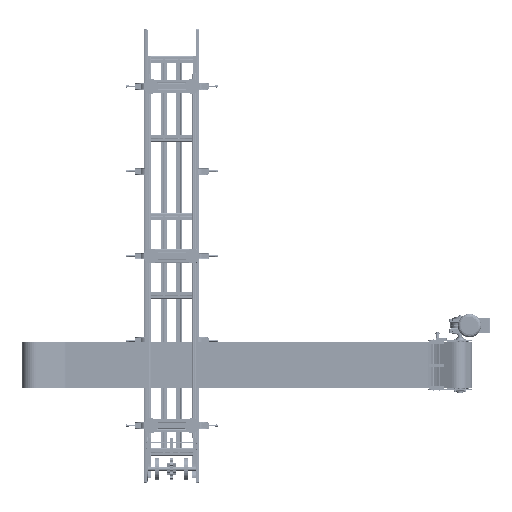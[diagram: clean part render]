
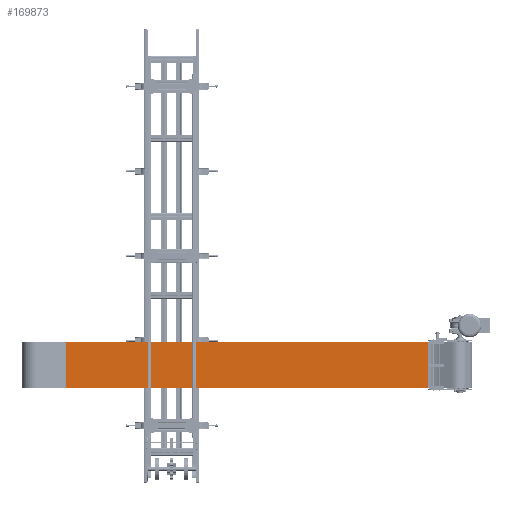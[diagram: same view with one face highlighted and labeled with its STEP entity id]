
A CAD part, front view. The second image highlights one B-rep face of the part: STEP entity #169873.
In plain terms, the highlighted planar face has unit normal (0, -1, 0).
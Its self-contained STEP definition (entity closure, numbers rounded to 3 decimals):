
#1623 = LINE ( 'NONE', #56891, #140714 ) ;
#2645 = EDGE_CURVE ( 'NONE', #166487, #22696, #173250, .T. ) ;
#5344 = EDGE_CURVE ( 'NONE', #173662, #166487, #74994, .T. ) ;
#6720 = VECTOR ( 'NONE', #106102, 1000. ) ;
#22696 = VERTEX_POINT ( 'NONE', #94841 ) ;
#23082 = CARTESIAN_POINT ( 'NONE',  ( 152.4, -120.83, 0. ) ) ;
#25418 = ORIENTED_EDGE ( 'NONE', *, *, #2645, .F. ) ;
#27414 = ORIENTED_EDGE ( 'NONE', *, *, #91026, .T. ) ;
#28742 = DIRECTION ( 'NONE',  ( 0., 0., 1. ) ) ;
#30825 = ORIENTED_EDGE ( 'NONE', *, *, #5344, .F. ) ;
#48909 = CARTESIAN_POINT ( 'NONE',  ( 152.4, -120.83, 2406. ) ) ;
#56891 = CARTESIAN_POINT ( 'NONE',  ( 152.4, -120.83, 0. ) ) ;
#58995 = ORIENTED_EDGE ( 'NONE', *, *, #71156, .T. ) ;
#67512 = CARTESIAN_POINT ( 'NONE',  ( -152.4, -120.83, 0. ) ) ;
#71156 = EDGE_CURVE ( 'NONE', #173662, #86559, #1623, .T. ) ;
#74994 = LINE ( 'NONE', #76816, #169367 ) ;
#76816 = CARTESIAN_POINT ( 'NONE',  ( -152.4, -120.83, 0. ) ) ;
#86559 = VERTEX_POINT ( 'NONE', #23082 ) ;
#87312 = AXIS2_PLACEMENT_3D ( 'NONE', #100121, #113689, #169074 ) ;
#91026 = EDGE_CURVE ( 'NONE', #86559, #22696, #126676, .T. ) ;
#94841 = CARTESIAN_POINT ( 'NONE',  ( 152.4, -120.83, 2406. ) ) ;
#100121 = CARTESIAN_POINT ( 'NONE',  ( 152.4, -120.83, 0. ) ) ;
#106102 = DIRECTION ( 'NONE',  ( 1., 0., 0. ) ) ;
#113689 = DIRECTION ( 'NONE',  ( 0., -1., 0. ) ) ;
#126676 = LINE ( 'NONE', #127563, #166674 ) ;
#127307 = PLANE ( 'NONE',  #87312 ) ;
#127563 = CARTESIAN_POINT ( 'NONE',  ( 152.4, -120.83, 0. ) ) ;
#128514 = DIRECTION ( 'NONE',  ( 1., 0., 0. ) ) ;
#140714 = VECTOR ( 'NONE', #128514, 1000. ) ;
#155294 = CARTESIAN_POINT ( 'NONE',  ( -152.4, -120.83, 2406. ) ) ;
#166487 = VERTEX_POINT ( 'NONE', #155294 ) ;
#166674 = VECTOR ( 'NONE', #28742, 1000. ) ;
#167290 = FACE_OUTER_BOUND ( 'NONE', #177076, .T. ) ;
#169074 = DIRECTION ( 'NONE',  ( 0., 0., -1. ) ) ;
#169367 = VECTOR ( 'NONE', #171201, 1000. ) ;
#169873 = ADVANCED_FACE ( 'NONE', ( #167290 ), #127307, .T. ) ;
#171201 = DIRECTION ( 'NONE',  ( 0., 0., 1. ) ) ;
#173250 = LINE ( 'NONE', #48909, #6720 ) ;
#173662 = VERTEX_POINT ( 'NONE', #67512 ) ;
#177076 = EDGE_LOOP ( 'NONE', ( #27414, #25418, #30825, #58995 ) ) ;
